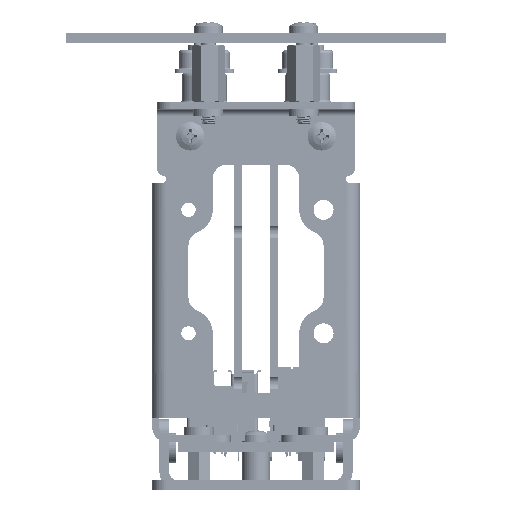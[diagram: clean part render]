
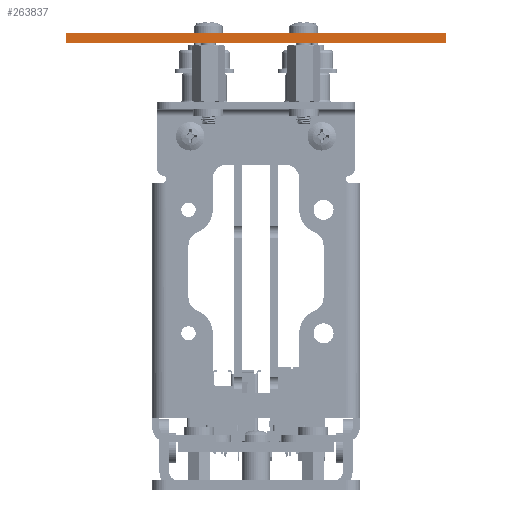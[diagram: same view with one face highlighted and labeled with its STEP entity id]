
A CAD part, left-side view. The second image highlights one B-rep face of the part: STEP entity #263837.
In plain terms, the highlighted planar face has unit normal (-1, 0, 0).
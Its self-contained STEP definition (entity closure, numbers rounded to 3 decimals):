
#6864=DIRECTION('',(0.,-1.,0.));
#6865=VECTOR('',#6864,80.);
#6866=CARTESIAN_POINT('',(8.,35.422,-2.032));
#6867=LINE('',#6866,#6865);
#9256=DIRECTION('',(0.,0.,1.));
#9257=VECTOR('',#9256,2.032);
#9258=CARTESIAN_POINT('',(8.,-44.578,-2.032));
#9259=LINE('',#9258,#9257);
#9260=DIRECTION('',(0.,0.,1.));
#9261=VECTOR('',#9260,2.032);
#9262=CARTESIAN_POINT('',(8.,35.422,-2.032));
#9263=LINE('',#9262,#9261);
#9276=DIRECTION('',(0.,-1.,0.));
#9277=VECTOR('',#9276,80.);
#9278=CARTESIAN_POINT('',(8.,35.422,0.));
#9279=LINE('',#9278,#9277);
#218225=CARTESIAN_POINT('',(8.,35.422,-2.032));
#218226=VERTEX_POINT('',#218225);
#218227=CARTESIAN_POINT('',(8.,-44.578,-2.032));
#218228=VERTEX_POINT('',#218227);
#218233=CARTESIAN_POINT('',(8.,35.422,0.));
#218234=VERTEX_POINT('',#218233);
#218235=CARTESIAN_POINT('',(8.,-44.578,0.));
#218236=VERTEX_POINT('',#218235);
#263824=CARTESIAN_POINT('',(8.,35.422,-2.032));
#263825=DIRECTION('',(-1.,0.,0.));
#263826=DIRECTION('',(0.,-1.,0.));
#263827=AXIS2_PLACEMENT_3D('',#263824,#263825,#263826);
#263828=PLANE('',#263827);
#263829=ORIENTED_EDGE('',*,*,#262340,.F.);
#263831=ORIENTED_EDGE('',*,*,#263830,.T.);
#263833=ORIENTED_EDGE('',*,*,#263832,.T.);
#263834=ORIENTED_EDGE('',*,*,#263809,.F.);
#263835=EDGE_LOOP('',(#263829,#263831,#263833,#263834));
#263836=FACE_OUTER_BOUND('',#263835,.F.);
#262340=EDGE_CURVE('',#218226,#218228,#6867,.T.);
#263809=EDGE_CURVE('',#218228,#218236,#9259,.T.);
#263830=EDGE_CURVE('',#218226,#218234,#9263,.T.);
#263832=EDGE_CURVE('',#218234,#218236,#9279,.T.);
#263837=ADVANCED_FACE('',(#263836),#263828,.T.);
